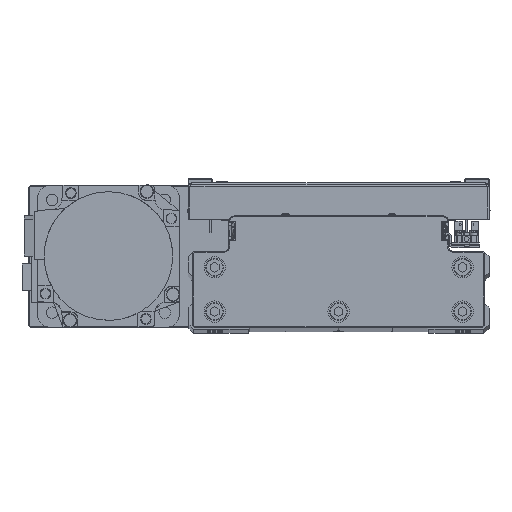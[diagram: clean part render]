
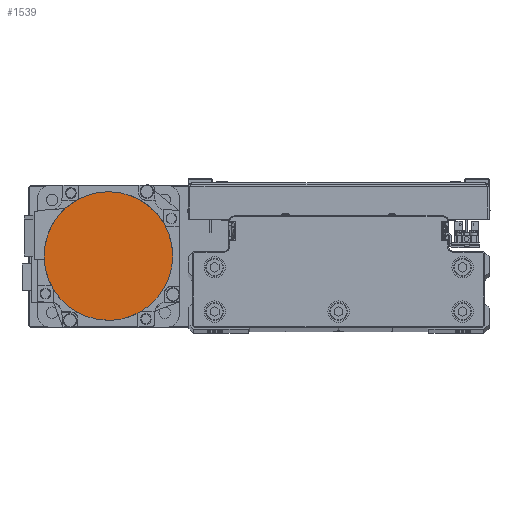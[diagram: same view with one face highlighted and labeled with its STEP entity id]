
A CAD part, top view. The second image highlights one B-rep face of the part: STEP entity #1539.
In plain terms, the highlighted planar face has unit normal (0, 0, 1) as drawn and (0, 0, -1) by its records, which use the part's own axes.
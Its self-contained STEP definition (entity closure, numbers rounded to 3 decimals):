
#338 = CARTESIAN_POINT ( 'NONE',  ( -31.502, 18.192, -122.2 ) ) ;
#1144 = DIRECTION ( 'NONE',  ( -1., 0., 0. ) ) ;
#1506 = VERTEX_POINT ( 'NONE', #40966 ) ;
#1539 = ADVANCED_FACE ( 'NONE', ( #16604 ), #30631, .F. ) ;
#2653 = DIRECTION ( 'NONE',  ( -1., 0., 0. ) ) ;
#2663 = CARTESIAN_POINT ( 'NONE',  ( -36.3, 0., -122.2 ) ) ;
#2892 = CARTESIAN_POINT ( 'NONE',  ( -11.696, -34.446, -122.2 ) ) ;
#3249 = EDGE_CURVE ( 'NONE', #23126, #20183, #36500, .T. ) ;
#3767 = CARTESIAN_POINT ( 'NONE',  ( -23.988, 27.348, -122.2 ) ) ;
#6325 = CARTESIAN_POINT ( 'NONE',  ( -22.143, -28.862, -122.2 ) ) ;
#7224 = CARTESIAN_POINT ( 'NONE',  ( -16.086, 32.628, -122.2 ) ) ;
#7634 = ORIENTED_EDGE ( 'NONE', *, *, #3249, .F. ) ;
#8799 = EDGE_CURVE ( 'NONE', #42555, #1506, #32586, .T. ) ;
#9775 = CARTESIAN_POINT ( 'NONE',  ( -28.862, -22.143, -122.2 ) ) ;
#10656 = CARTESIAN_POINT ( 'NONE',  ( -4.752, 36.066, -122.2 ) ) ;
#10889 = CARTESIAN_POINT ( 'NONE',  ( -36.066, 4.752, -122.2 ) ) ;
#12204 = ORIENTED_EDGE ( 'NONE', *, *, #45230, .F. ) ;
#13151 = DIRECTION ( 'NONE',  ( 0., 0., 1. ) ) ;
#13219 = CARTESIAN_POINT ( 'NONE',  ( -34.446, -11.696, -122.2 ) ) ;
#13444 = CARTESIAN_POINT ( 'NONE',  ( 0., -36.3, -122.2 ) ) ;
#14341 = CARTESIAN_POINT ( 'NONE',  ( -32.628, 16.086, -122.2 ) ) ;
#15400 = CARTESIAN_POINT ( 'NONE',  ( 36.3, 0., -122.2 ) ) ;
#15787 = AXIS2_PLACEMENT_3D ( 'NONE', #20132, #34142, #2653 ) ;
#16604 = FACE_OUTER_BOUND ( 'NONE', #23851, .T. ) ;
#16682 = CARTESIAN_POINT ( 'NONE',  ( -36.3, -2.376, -122.2 ) ) ;
#16683 = AXIS2_PLACEMENT_3D ( 'NONE', #18611, #32629, #1144 ) ;
#16908 = CARTESIAN_POINT ( 'NONE',  ( -9.412, -35.139, -122.2 ) ) ;
#17797 = EDGE_CURVE ( 'NONE', #1506, #23126, #20734, .T. ) ;
#17800 = CARTESIAN_POINT ( 'NONE',  ( -27.348, 23.988, -122.2 ) ) ;
#18611 = CARTESIAN_POINT ( 'NONE',  ( 0., 0., -122.2 ) ) ;
#19141 = CARTESIAN_POINT ( 'NONE',  ( 0., 36.3, -122.2 ) ) ;
#20132 = CARTESIAN_POINT ( 'NONE',  ( 0., 0., -122.2 ) ) ;
#20183 = VERTEX_POINT ( 'NONE', #15400 ) ;
#20359 = CARTESIAN_POINT ( 'NONE',  ( -18.192, -31.502, -122.2 ) ) ;
#20734 = B_SPLINE_CURVE_WITH_KNOTS ( 'NONE', 3,
 ( #2663, #16682, #30704, #44726, #13219, #27246, #41264, #9775, #23812, #37806, #6325, #20359, #34380, #2892, #16908, #30921, #44949, #13444 ),
 .UNSPECIFIED., .F., .F.,
 ( 4, 2, 2, 2, 2, 2, 2, 2, 4 ),
 ( 0., 0.125, 0.25, 0.375, 0.5, 0.625, 0.75, 0.875, 1. ),
 .UNSPECIFIED. ) ;
#21251 = CARTESIAN_POINT ( 'NONE',  ( -18.192, 31.502, -122.2 ) ) ;
#23126 = VERTEX_POINT ( 'NONE', #43654 ) ;
#23812 = CARTESIAN_POINT ( 'NONE',  ( -27.348, -23.988, -122.2 ) ) ;
#23851 = EDGE_LOOP ( 'NONE', ( #7634, #29761, #30441, #12204 ) ) ;
#24692 = CARTESIAN_POINT ( 'NONE',  ( -9.412, 35.139, -122.2 ) ) ;
#24927 = CARTESIAN_POINT ( 'NONE',  ( -36.3, 2.376, -122.2 ) ) ;
#27174 = DIRECTION ( 'NONE',  ( 1., 0., 0. ) ) ;
#27246 = CARTESIAN_POINT ( 'NONE',  ( -32.628, -16.086, -122.2 ) ) ;
#28128 = CARTESIAN_POINT ( 'NONE',  ( 0., 36.3, -122.2 ) ) ;
#28357 = CARTESIAN_POINT ( 'NONE',  ( -34.446, 11.696, -122.2 ) ) ;
#29761 = ORIENTED_EDGE ( 'NONE', *, *, #17797, .F. ) ;
#30441 = ORIENTED_EDGE ( 'NONE', *, *, #8799, .F. ) ;
#30631 = PLANE ( 'NONE',  #45202 ) ;
#30704 = CARTESIAN_POINT ( 'NONE',  ( -36.066, -4.752, -122.2 ) ) ;
#30921 = CARTESIAN_POINT ( 'NONE',  ( -4.752, -36.066, -122.2 ) ) ;
#31824 = CARTESIAN_POINT ( 'NONE',  ( -28.862, 22.143, -122.2 ) ) ;
#32586 = B_SPLINE_CURVE_WITH_KNOTS ( 'NONE', 3,
 ( #28128, #42148, #10656, #24692, #38691, #7224, #21251, #35259, #3767, #17800, #31824, #338, #14341, #28357, #42377, #10889, #24927, #38926 ),
 .UNSPECIFIED., .F., .F.,
 ( 4, 2, 2, 2, 2, 2, 2, 2, 4 ),
 ( 0., 0.125, 0.25, 0.375, 0.5, 0.625, 0.75, 0.875, 1. ),
 .UNSPECIFIED. ) ;
#32629 = DIRECTION ( 'NONE',  ( 0., 0., 1. ) ) ;
#34142 = DIRECTION ( 'NONE',  ( 0., 0., 1. ) ) ;
#34380 = CARTESIAN_POINT ( 'NONE',  ( -16.086, -32.628, -122.2 ) ) ;
#35259 = CARTESIAN_POINT ( 'NONE',  ( -22.143, 28.862, -122.2 ) ) ;
#35611 = CIRCLE ( 'NONE', #15787, 36.3 ) ;
#36500 = CIRCLE ( 'NONE', #16683, 36.3 ) ;
#37806 = CARTESIAN_POINT ( 'NONE',  ( -23.988, -27.348, -122.2 ) ) ;
#38691 = CARTESIAN_POINT ( 'NONE',  ( -11.696, 34.446, -122.2 ) ) ;
#38926 = CARTESIAN_POINT ( 'NONE',  ( -36.3, 0., -122.2 ) ) ;
#40966 = CARTESIAN_POINT ( 'NONE',  ( -36.3, 0., -122.2 ) ) ;
#41264 = CARTESIAN_POINT ( 'NONE',  ( -31.502, -18.192, -122.2 ) ) ;
#42148 = CARTESIAN_POINT ( 'NONE',  ( -2.376, 36.3, -122.2 ) ) ;
#42377 = CARTESIAN_POINT ( 'NONE',  ( -35.139, 9.412, -122.2 ) ) ;
#42555 = VERTEX_POINT ( 'NONE', #19141 ) ;
#43654 = CARTESIAN_POINT ( 'NONE',  ( 0., -36.3, -122.2 ) ) ;
#44648 = CARTESIAN_POINT ( 'NONE',  ( 0., 0., -122.2 ) ) ;
#44726 = CARTESIAN_POINT ( 'NONE',  ( -35.139, -9.412, -122.2 ) ) ;
#44949 = CARTESIAN_POINT ( 'NONE',  ( -2.376, -36.3, -122.2 ) ) ;
#45202 = AXIS2_PLACEMENT_3D ( 'NONE', #44648, #13151, #27174 ) ;
#45230 = EDGE_CURVE ( 'NONE', #20183, #42555, #35611, .T. ) ;
